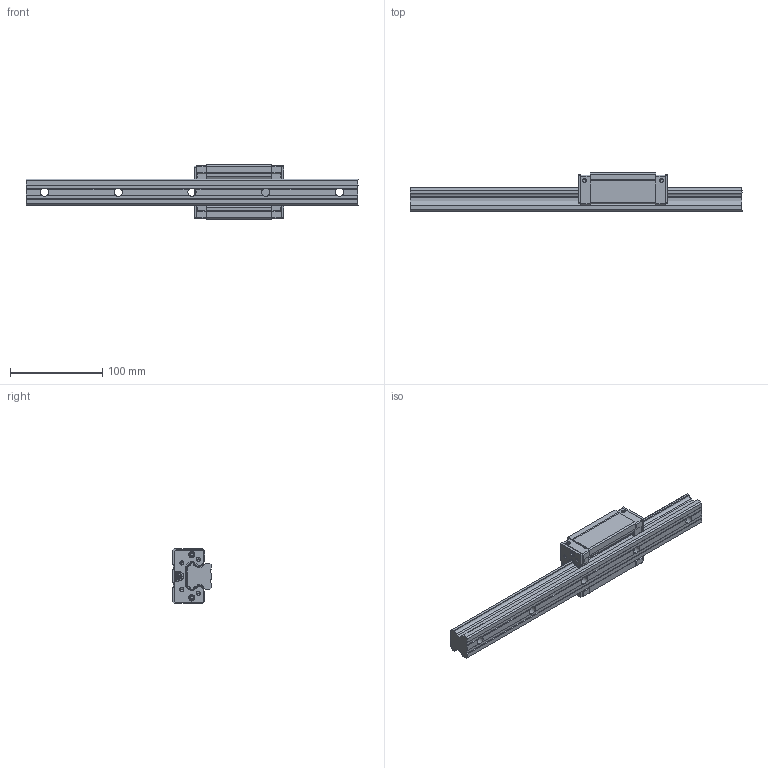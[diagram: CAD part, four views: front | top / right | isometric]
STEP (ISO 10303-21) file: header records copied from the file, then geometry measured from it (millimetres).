
FILE_DESCRIPTION (( 'STEP AP203' ), '1' );
FILE_NAME ('MCS30-N.STEP', '2020-08-04T10:11:09', ( '' ), ( '' ), 'SwSTEP 2.0', 'SolidWorks 2014', '' );
FILE_SCHEMA (( 'CONFIG_CONTROL_DESIGN' ));
Length unit declared in the file: millimetre
Products named in the file (7): MCS30-N; 4; 3; 2; 綰煙; 6; 5
Assembly tree (6 placements, depth 2):
  MCS30-N
    6
    2
    3
    4
    5
    綰煙
Bounding box: 360 x 41.98 x 60 mm (x, y, z)
Volume: 324451.1 mm3; surface area: 90213.7 mm2
Topology: 6 solids, 6 shells, 1408 faces, 3936 edges, 2608 vertices
Faces by surface type: plane 916, cylinder 270, bspline 214, cone 8
Entity records: 64726 total; most frequent: CARTESIAN_POINT 31740, ORIENTED_EDGE 7872, DIRECTION 4844, EDGE_CURVE 3936, VERTEX_POINT 2608, VECTOR 2086, LINE 2086, B_SPLINE_CURVE_WITH_KNOTS 1540
